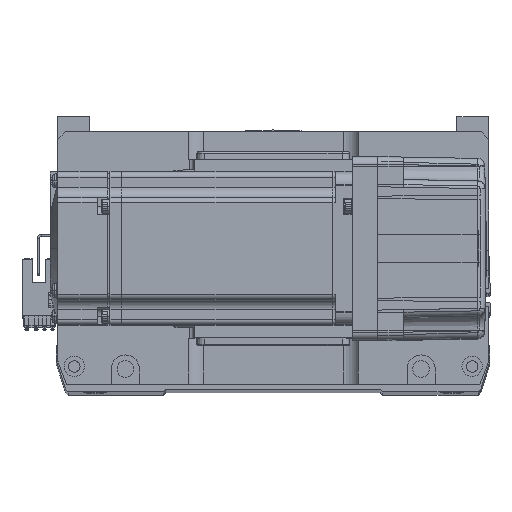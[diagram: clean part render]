
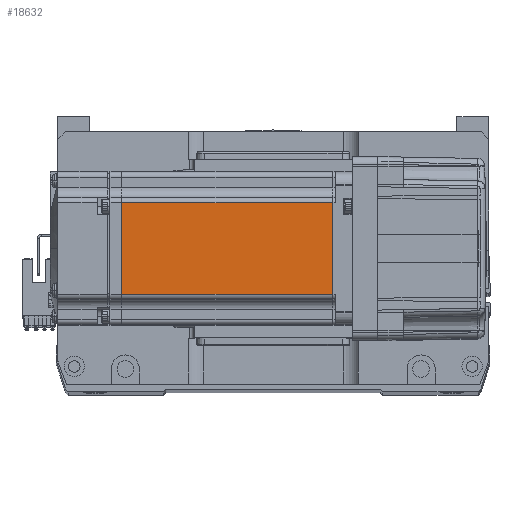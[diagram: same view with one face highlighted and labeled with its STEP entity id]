
A CAD part, top view. The second image highlights one B-rep face of the part: STEP entity #18632.
In plain terms, the highlighted planar face has unit normal (0, 0, 1).
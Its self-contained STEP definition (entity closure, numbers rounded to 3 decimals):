
#398 = EDGE_CURVE ( 'NONE', #9353, #16743, #49214, .T. ) ;
#2740 = EDGE_CURVE ( 'NONE', #9353, #29662, #6057, .T. ) ;
#5863 = EDGE_CURVE ( 'NONE', #16743, #24745, #60544, .T. ) ;
#5965 = DIRECTION ( 'NONE',  ( 0., -1., 0. ) ) ;
#6057 = LINE ( 'NONE', #49494, #38352 ) ;
#8990 = DIRECTION ( 'NONE',  ( -1., 0., 0. ) ) ;
#9179 = CARTESIAN_POINT ( 'NONE',  ( -7.75, 18., 30. ) ) ;
#9353 = VERTEX_POINT ( 'NONE', #9179 ) ;
#9413 = VECTOR ( 'NONE', #46195, 1000. ) ;
#9426 = CARTESIAN_POINT ( 'NONE',  ( -6.5, -25., 30. ) ) ;
#13548 = AXIS2_PLACEMENT_3D ( 'NONE', #9426, #19480, #19680 ) ;
#13818 = ORIENTED_EDGE ( 'NONE', *, *, #398, .T. ) ;
#14088 = VECTOR ( 'NONE', #8990, 1000. ) ;
#14324 = EDGE_CURVE ( 'NONE', #29662, #24745, #30452, .T. ) ;
#14452 = CARTESIAN_POINT ( 'NONE',  ( -90.45, 18., 30. ) ) ;
#16743 = VERTEX_POINT ( 'NONE', #14452 ) ;
#16819 = CARTESIAN_POINT ( 'NONE',  ( -6.5, 18., 30. ) ) ;
#18632 = ADVANCED_FACE ( 'NONE', ( #29120 ), #33334, .T. ) ;
#19480 = DIRECTION ( 'NONE',  ( 0., 0., 1. ) ) ;
#19680 = DIRECTION ( 'NONE',  ( 1., 0., 0. ) ) ;
#22667 = CARTESIAN_POINT ( 'NONE',  ( -90.45, 0., 30. ) ) ;
#24745 = VERTEX_POINT ( 'NONE', #48105 ) ;
#29120 = FACE_OUTER_BOUND ( 'NONE', #48724, .T. ) ;
#29662 = VERTEX_POINT ( 'NONE', #37960 ) ;
#30452 = LINE ( 'NONE', #33103, #14088 ) ;
#31387 = DIRECTION ( 'NONE',  ( -1., 0., 0. ) ) ;
#33103 = CARTESIAN_POINT ( 'NONE',  ( -6.5, -18., 30. ) ) ;
#33334 = PLANE ( 'NONE',  #13548 ) ;
#37341 = ORIENTED_EDGE ( 'NONE', *, *, #2740, .F. ) ;
#37960 = CARTESIAN_POINT ( 'NONE',  ( -7.75, -18., 30. ) ) ;
#38352 = VECTOR ( 'NONE', #5965, 1000. ) ;
#46195 = DIRECTION ( 'NONE',  ( 0., -1., 0. ) ) ;
#47733 = ORIENTED_EDGE ( 'NONE', *, *, #14324, .F. ) ;
#48105 = CARTESIAN_POINT ( 'NONE',  ( -90.45, -18., 30. ) ) ;
#48505 = VECTOR ( 'NONE', #31387, 1000. ) ;
#48724 = EDGE_LOOP ( 'NONE', ( #37341, #13818, #50387, #47733 ) ) ;
#49214 = LINE ( 'NONE', #16819, #48505 ) ;
#49494 = CARTESIAN_POINT ( 'NONE',  ( -7.75, 0., 30. ) ) ;
#50387 = ORIENTED_EDGE ( 'NONE', *, *, #5863, .T. ) ;
#60544 = LINE ( 'NONE', #22667, #9413 ) ;
